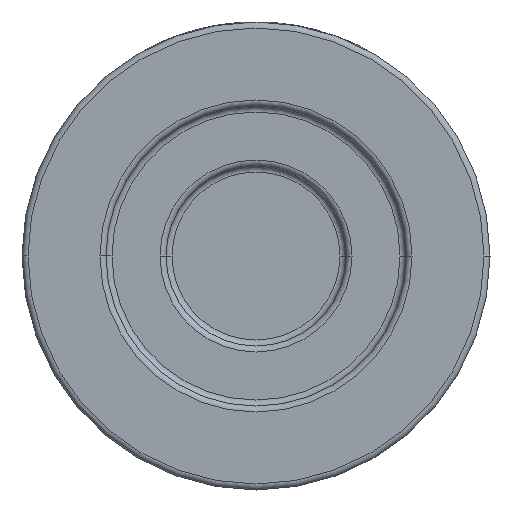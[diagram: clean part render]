
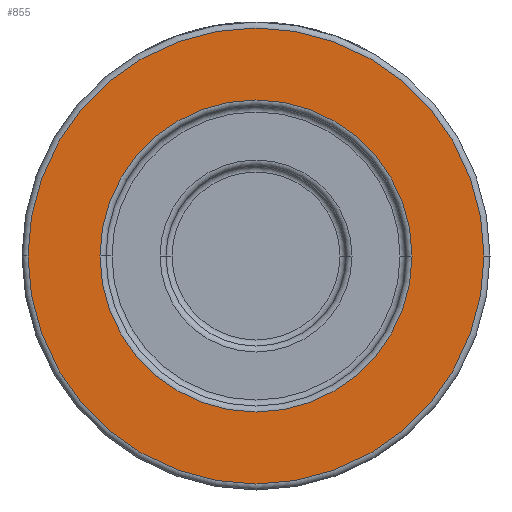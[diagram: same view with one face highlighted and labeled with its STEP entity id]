
A CAD part, front view. The second image highlights one B-rep face of the part: STEP entity #855.
In plain terms, the highlighted planar face has unit normal (0, -1, 0).
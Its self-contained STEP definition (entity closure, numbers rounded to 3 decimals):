
#40 = CIRCLE ( 'NONE', #3762, 26. ) ;
#108 = CARTESIAN_POINT ( 'NONE',  ( 0., -35., 0. ) ) ;
#119 = ORIENTED_EDGE ( 'NONE', *, *, #1586, .T. ) ;
#180 = EDGE_CURVE ( 'NONE', #2822, #3621, #1044, .T. ) ;
#246 = CARTESIAN_POINT ( 'NONE',  ( 0., -35., 0. ) ) ;
#362 = EDGE_LOOP ( 'NONE', ( #2214, #119 ) ) ;
#690 = ORIENTED_EDGE ( 'NONE', *, *, #1017, .T. ) ;
#855 = ADVANCED_FACE ( 'NONE', ( #3432, #3933 ), #3194, .T. ) ;
#1017 = EDGE_CURVE ( 'NONE', #3621, #2822, #1172, .T. ) ;
#1022 = CARTESIAN_POINT ( 'NONE',  ( -26., -35., 0. ) ) ;
#1044 = CIRCLE ( 'NONE', #3403, 38. ) ;
#1129 = EDGE_LOOP ( 'NONE', ( #690, #2567 ) ) ;
#1172 = CIRCLE ( 'NONE', #2852, 38. ) ;
#1436 = CARTESIAN_POINT ( 'NONE',  ( 0., -35., 0. ) ) ;
#1542 = DIRECTION ( 'NONE',  ( 0., -1., 0. ) ) ;
#1586 = EDGE_CURVE ( 'NONE', #3520, #3154, #40, .T. ) ;
#1588 = DIRECTION ( 'NONE',  ( 0., 1., 0. ) ) ;
#1648 = CARTESIAN_POINT ( 'NONE',  ( 26., -35., 0. ) ) ;
#1765 = DIRECTION ( 'NONE',  ( 0., 1., 0. ) ) ;
#1947 = CARTESIAN_POINT ( 'NONE',  ( 0., -35., 0. ) ) ;
#2100 = DIRECTION ( 'NONE',  ( 0., -1., 0. ) ) ;
#2214 = ORIENTED_EDGE ( 'NONE', *, *, #3372, .T. ) ;
#2326 = AXIS2_PLACEMENT_3D ( 'NONE', #1947, #1588, #3833 ) ;
#2546 = CARTESIAN_POINT ( 'NONE',  ( 38., -35., 0. ) ) ;
#2567 = ORIENTED_EDGE ( 'NONE', *, *, #180, .T. ) ;
#2822 = VERTEX_POINT ( 'NONE', #4383 ) ;
#2852 = AXIS2_PLACEMENT_3D ( 'NONE', #108, #1542, #2955 ) ;
#2862 = CIRCLE ( 'NONE', #2326, 26. ) ;
#2907 = DIRECTION ( 'NONE',  ( 1., 0., 0. ) ) ;
#2955 = DIRECTION ( 'NONE',  ( 1., 0., 0. ) ) ;
#3136 = DIRECTION ( 'NONE',  ( 0., -1., 0. ) ) ;
#3154 = VERTEX_POINT ( 'NONE', #1648 ) ;
#3194 = PLANE ( 'NONE',  #3842 ) ;
#3225 = DIRECTION ( 'NONE',  ( 1., 0., 0. ) ) ;
#3372 = EDGE_CURVE ( 'NONE', #3154, #3520, #2862, .T. ) ;
#3403 = AXIS2_PLACEMENT_3D ( 'NONE', #246, #3136, #4611 ) ;
#3432 = FACE_BOUND ( 'NONE', #362, .T. ) ;
#3520 = VERTEX_POINT ( 'NONE', #1022 ) ;
#3528 = CARTESIAN_POINT ( 'NONE',  ( 39., -35., 0. ) ) ;
#3621 = VERTEX_POINT ( 'NONE', #2546 ) ;
#3762 = AXIS2_PLACEMENT_3D ( 'NONE', #1436, #1765, #3225 ) ;
#3833 = DIRECTION ( 'NONE',  ( 1., 0., 0. ) ) ;
#3842 = AXIS2_PLACEMENT_3D ( 'NONE', #3528, #2100, #2907 ) ;
#3933 = FACE_OUTER_BOUND ( 'NONE', #1129, .T. ) ;
#4383 = CARTESIAN_POINT ( 'NONE',  ( -38., -35., 0. ) ) ;
#4611 = DIRECTION ( 'NONE',  ( 1., 0., 0. ) ) ;
